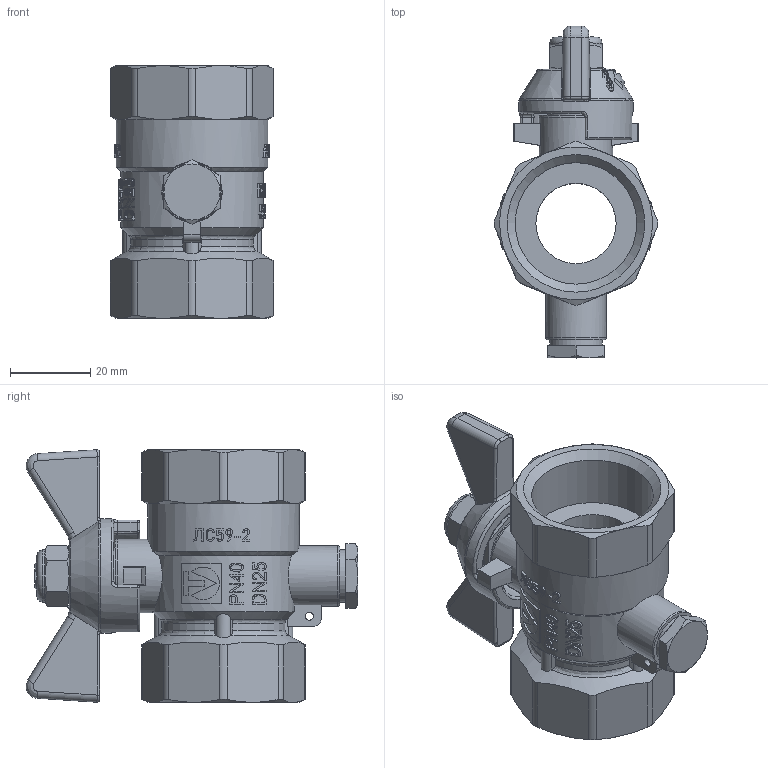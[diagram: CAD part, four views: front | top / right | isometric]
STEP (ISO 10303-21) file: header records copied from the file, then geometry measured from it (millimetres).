
FILE_DESCRIPTION(('STEP AP203'), '1');
FILE_NAME('VT.247S.N.06', '', ('UNSPECIFIED'), ('UNSPECIFIED'), 'C3D Converter', 'C3D Toolkit', '');
FILE_SCHEMA(('CONFIG_CONTROL_DESIGN'));
Length unit declared in the file: millimetre
Products named in the file (1): ВР.491812.019.000 СБ
Bounding box: 40.83 x 82.7 x 63 mm (x, y, z)
Volume: 52431.7 mm3; surface area: 21262.4 mm2
Topology: 1 solids, 1 shells, 1638 faces, 4622 edges, 3038 vertices
Faces by surface type: plane 1346, cylinder 120, cone 58, extrusion 47, bspline 40, torus 27
Full cylindrical faces by diameter (mm): 2 x1, 9.5 x1, 12.1 x1, 13 x2, 14 x1, 15 x1, 18.3 x1, 20 x1, 28.5 x1, 30.292 x2, 37.8 x1
Entity records: 60852 total; most frequent: CARTESIAN_POINT 25405, ORIENTED_EDGE 9168, DIRECTION 5678, EDGE_CURVE 4584, VERTEX_POINT 3037, AXIS2_PLACEMENT_3D 1973, VECTOR 1732, EDGE_LOOP 1731
